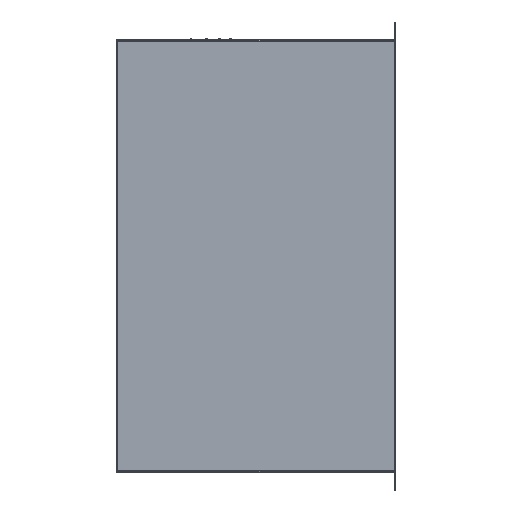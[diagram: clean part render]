
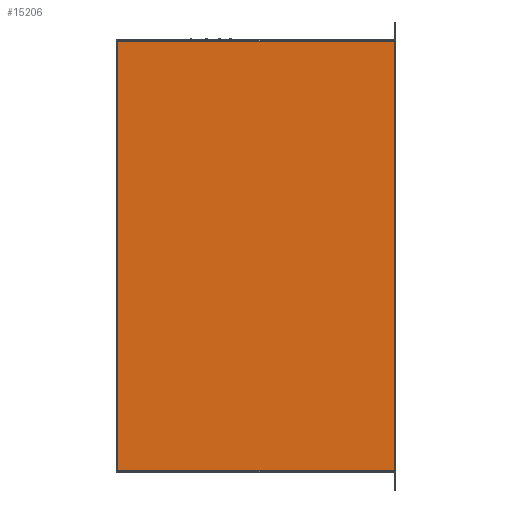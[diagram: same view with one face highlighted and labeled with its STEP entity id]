
A CAD part, front view. The second image highlights one B-rep face of the part: STEP entity #15206.
In plain terms, the highlighted planar face has unit normal (-0.02, -1, 0) as drawn and (0, 0, -1) by its records, which use the part's own axes.
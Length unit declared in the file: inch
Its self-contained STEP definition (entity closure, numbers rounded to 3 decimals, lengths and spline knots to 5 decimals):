
#967 = VECTOR ( 'NONE', #17177, 39.37008 ) ;
#1466 = CARTESIAN_POINT ( 'NONE',  ( -4.47226, -13.35023, -0.06 ) ) ;
#1834 = VECTOR ( 'NONE', #26416, 39.37008 ) ;
#2305 = CARTESIAN_POINT ( 'NONE',  ( -4.47226, 20.54083, -0.06 ) ) ;
#2597 = DIRECTION ( 'NONE',  ( 0., -1., 0. ) ) ;
#2698 = ORIENTED_EDGE ( 'NONE', *, *, #11997, .F. ) ;
#2701 = LINE ( 'NONE', #28149, #25613 ) ;
#3587 = CARTESIAN_POINT ( 'NONE',  ( 17.26104, 0., -0.06 ) ) ;
#4060 = CARTESIAN_POINT ( 'NONE',  ( -4.47226, 20.54422, -0.06 ) ) ;
#4359 = CARTESIAN_POINT ( 'NONE',  ( 0., 20.54083, -0.06 ) ) ;
#5174 = CARTESIAN_POINT ( 'NONE',  ( 0., 20.54422, -0.06 ) ) ;
#5179 = VERTEX_POINT ( 'NONE', #22929 ) ;
#5306 = VECTOR ( 'NONE', #19105, 39.37008 ) ;
#5549 = EDGE_CURVE ( 'NONE', #10745, #20409, #12676, .T. ) ;
#5893 = ORIENTED_EDGE ( 'NONE', *, *, #28380, .T. ) ;
#6003 = CARTESIAN_POINT ( 'NONE',  ( 17.32104, 20.50708, -0.06 ) ) ;
#6164 = VECTOR ( 'NONE', #7401, 39.37008 ) ;
#6265 = VECTOR ( 'NONE', #23460, 39.37008 ) ;
#6431 = CARTESIAN_POINT ( 'NONE',  ( 17.26104, 20.54422, -0.06 ) ) ;
#6471 = CARTESIAN_POINT ( 'NONE',  ( -4.54065, -13.35023, -0.06 ) ) ;
#6634 = EDGE_CURVE ( 'NONE', #20193, #17940, #16433, .T. ) ;
#6641 = ORIENTED_EDGE ( 'NONE', *, *, #6634, .T. ) ;
#6850 = LINE ( 'NONE', #7949, #23846 ) ;
#7138 = EDGE_CURVE ( 'NONE', #5179, #24472, #22999, .T. ) ;
#7198 = VECTOR ( 'NONE', #2597, 39.37008 ) ;
#7401 = DIRECTION ( 'NONE',  ( -1., 0., 0. ) ) ;
#7444 = ORIENTED_EDGE ( 'NONE', *, *, #23569, .T. ) ;
#7557 = LINE ( 'NONE', #5174, #6164 ) ;
#7949 = CARTESIAN_POINT ( 'NONE',  ( -4.47226, -15.10325, -0.06 ) ) ;
#8164 = CARTESIAN_POINT ( 'NONE',  ( 17.32104, -13.31648, -0.06 ) ) ;
#8227 = VERTEX_POINT ( 'NONE', #17287 ) ;
#8867 = EDGE_LOOP ( 'NONE', ( #18494, #28501, #7444, #13424, #6641, #2698, #11119, #18611, #23771, #21002, #24272, #5893 ) ) ;
#9109 = CARTESIAN_POINT ( 'NONE',  ( 17.26104, 20.50708, -0.06 ) ) ;
#9196 = CARTESIAN_POINT ( 'NONE',  ( -4.47226, 20.60083, -0.06 ) ) ;
#9851 = VECTOR ( 'NONE', #28814, 39.37008 ) ;
#9936 = EDGE_CURVE ( 'NONE', #8227, #5179, #23188, .T. ) ;
#10745 = VERTEX_POINT ( 'NONE', #20932 ) ;
#11074 = CARTESIAN_POINT ( 'NONE',  ( 17.26444, 0., -0.06 ) ) ;
#11119 = ORIENTED_EDGE ( 'NONE', *, *, #24685, .F. ) ;
#11900 = LINE ( 'NONE', #8164, #21604 ) ;
#11952 = PLANE ( 'NONE',  #18672 ) ;
#11997 = EDGE_CURVE ( 'NONE', #21440, #17940, #13074, .T. ) ;
#12041 = DIRECTION ( 'NONE',  ( 1., 0., 0. ) ) ;
#12566 = CARTESIAN_POINT ( 'NONE',  ( -4.54065, 20.54083, -0.06 ) ) ;
#12676 = LINE ( 'NONE', #28639, #23074 ) ;
#13074 = LINE ( 'NONE', #9196, #7198 ) ;
#13291 = EDGE_CURVE ( 'NONE', #22050, #24472, #18778, .T. ) ;
#13424 = ORIENTED_EDGE ( 'NONE', *, *, #20351, .F. ) ;
#15206 = ADVANCED_FACE ( 'NONE', ( #25928 ), #11952, .F. ) ;
#15284 = EDGE_CURVE ( 'NONE', #16585, #10745, #6850, .T. ) ;
#16406 = VECTOR ( 'NONE', #19284, 39.37008 ) ;
#16433 = LINE ( 'NONE', #4359, #9851 ) ;
#16585 = VERTEX_POINT ( 'NONE', #1466 ) ;
#16744 = CARTESIAN_POINT ( 'NONE',  ( 17.26104, -13.31648, -0.06 ) ) ;
#17177 = DIRECTION ( 'NONE',  ( 0., 1., 0. ) ) ;
#17287 = CARTESIAN_POINT ( 'NONE',  ( 17.26444, -13.31648, -0.06 ) ) ;
#17591 = DIRECTION ( 'NONE',  ( 1., 0., 0. ) ) ;
#17940 = VERTEX_POINT ( 'NONE', #2305 ) ;
#18494 = ORIENTED_EDGE ( 'NONE', *, *, #5549, .F. ) ;
#18611 = ORIENTED_EDGE ( 'NONE', *, *, #13291, .T. ) ;
#18639 = CARTESIAN_POINT ( 'NONE',  ( 0., 0., -0.06 ) ) ;
#18672 = AXIS2_PLACEMENT_3D ( 'NONE', #18639, #25324, #12041 ) ;
#18778 = LINE ( 'NONE', #21257, #6265 ) ;
#19105 = DIRECTION ( 'NONE',  ( 0., -1., 0. ) ) ;
#19284 = DIRECTION ( 'NONE',  ( -1., 0., 0. ) ) ;
#20193 = VERTEX_POINT ( 'NONE', #12566 ) ;
#20233 = LINE ( 'NONE', #24188, #1834 ) ;
#20351 = EDGE_CURVE ( 'NONE', #20193, #27332, #20233, .T. ) ;
#20409 = VERTEX_POINT ( 'NONE', #26807 ) ;
#20782 = EDGE_CURVE ( 'NONE', #23066, #8227, #11900, .T. ) ;
#20932 = CARTESIAN_POINT ( 'NONE',  ( -4.47226, -13.35362, -0.06 ) ) ;
#21002 = ORIENTED_EDGE ( 'NONE', *, *, #9936, .F. ) ;
#21249 = DIRECTION ( 'NONE',  ( 0., -1., 0. ) ) ;
#21257 = CARTESIAN_POINT ( 'NONE',  ( 17.26104, 0., -0.06 ) ) ;
#21440 = VERTEX_POINT ( 'NONE', #4060 ) ;
#21462 = DIRECTION ( 'NONE',  ( 1., 0., 0. ) ) ;
#21570 = DIRECTION ( 'NONE',  ( -1., 0., 0. ) ) ;
#21604 = VECTOR ( 'NONE', #21462, 39.37008 ) ;
#22050 = VERTEX_POINT ( 'NONE', #6431 ) ;
#22289 = LINE ( 'NONE', #3587, #5306 ) ;
#22929 = CARTESIAN_POINT ( 'NONE',  ( 17.26444, 20.50708, -0.06 ) ) ;
#22999 = LINE ( 'NONE', #6003, #16406 ) ;
#23066 = VERTEX_POINT ( 'NONE', #16744 ) ;
#23074 = VECTOR ( 'NONE', #17591, 39.37008 ) ;
#23188 = LINE ( 'NONE', #11074, #967 ) ;
#23460 = DIRECTION ( 'NONE',  ( 0., -1., 0. ) ) ;
#23569 = EDGE_CURVE ( 'NONE', #16585, #27332, #2701, .T. ) ;
#23771 = ORIENTED_EDGE ( 'NONE', *, *, #7138, .F. ) ;
#23846 = VECTOR ( 'NONE', #21249, 39.37008 ) ;
#24188 = CARTESIAN_POINT ( 'NONE',  ( -4.54065, 0., -0.06 ) ) ;
#24272 = ORIENTED_EDGE ( 'NONE', *, *, #20782, .F. ) ;
#24472 = VERTEX_POINT ( 'NONE', #9109 ) ;
#24685 = EDGE_CURVE ( 'NONE', #22050, #21440, #7557, .T. ) ;
#25324 = DIRECTION ( 'NONE',  ( 0., 0., 1. ) ) ;
#25613 = VECTOR ( 'NONE', #21570, 39.37008 ) ;
#25928 = FACE_OUTER_BOUND ( 'NONE', #8867, .T. ) ;
#26416 = DIRECTION ( 'NONE',  ( 0., -1., 0. ) ) ;
#26807 = CARTESIAN_POINT ( 'NONE',  ( 17.26104, -13.35362, -0.06 ) ) ;
#27332 = VERTEX_POINT ( 'NONE', #6471 ) ;
#28149 = CARTESIAN_POINT ( 'NONE',  ( 0., -13.35023, -0.06 ) ) ;
#28380 = EDGE_CURVE ( 'NONE', #23066, #20409, #22289, .T. ) ;
#28501 = ORIENTED_EDGE ( 'NONE', *, *, #15284, .F. ) ;
#28639 = CARTESIAN_POINT ( 'NONE',  ( 0., -13.35362, -0.06 ) ) ;
#28814 = DIRECTION ( 'NONE',  ( 1., 0., 0. ) ) ;
